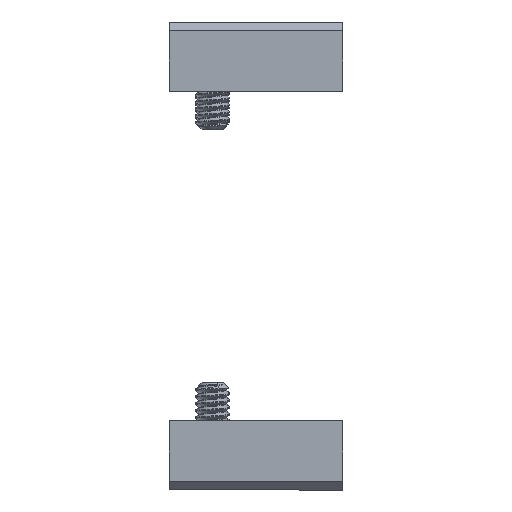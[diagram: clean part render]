
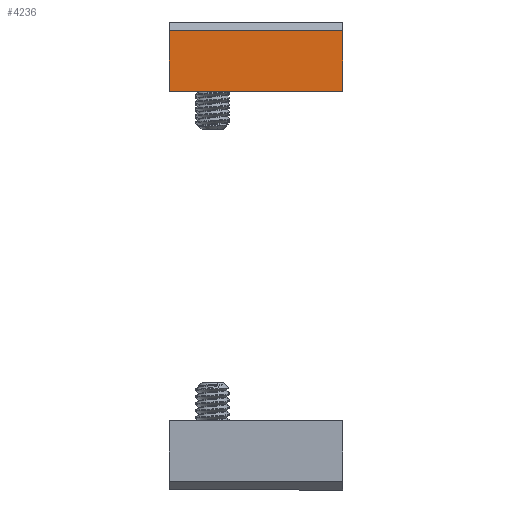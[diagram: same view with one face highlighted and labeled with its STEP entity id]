
A CAD part, left-side view. The second image highlights one B-rep face of the part: STEP entity #4236.
In plain terms, the highlighted planar face has unit normal (-1, 0, 0).
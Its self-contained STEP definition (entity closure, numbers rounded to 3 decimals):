
#28 = CARTESIAN_POINT ( 'NONE',  ( -15.5, 7.5, 0. ) ) ;
#669 = PLANE ( 'NONE',  #7419 ) ;
#1813 = DIRECTION ( 'NONE',  ( 0., 0., -1. ) ) ;
#1815 = DIRECTION ( 'NONE',  ( 0., 1., 0. ) ) ;
#3953 = LINE ( 'NONE', #16608, #8770 ) ;
#4236 = ADVANCED_FACE ( 'NONE', ( #6121 ), #669, .F. ) ;
#4299 = VECTOR ( 'NONE', #14573, 1000. ) ;
#5452 = VERTEX_POINT ( 'NONE', #16240 ) ;
#5505 = EDGE_CURVE ( 'NONE', #5924, #11567, #3953, .T. ) ;
#5924 = VERTEX_POINT ( 'NONE', #28 ) ;
#6121 = FACE_OUTER_BOUND ( 'NONE', #12725, .T. ) ;
#6250 = LINE ( 'NONE', #17993, #16974 ) ;
#7221 = EDGE_CURVE ( 'NONE', #11567, #10392, #11135, .T. ) ;
#7299 = ORIENTED_EDGE ( 'NONE', *, *, #7221, .T. ) ;
#7419 = AXIS2_PLACEMENT_3D ( 'NONE', #13822, #11951, #20070 ) ;
#7789 = ORIENTED_EDGE ( 'NONE', *, *, #5505, .T. ) ;
#8522 = EDGE_CURVE ( 'NONE', #5452, #5924, #6250, .T. ) ;
#8770 = VECTOR ( 'NONE', #14660, 1000. ) ;
#10392 = VERTEX_POINT ( 'NONE', #19156 ) ;
#11135 = LINE ( 'NONE', #17812, #4299 ) ;
#11567 = VERTEX_POINT ( 'NONE', #14966 ) ;
#11951 = DIRECTION ( 'NONE',  ( 1., 0., 0. ) ) ;
#12725 = EDGE_LOOP ( 'NONE', ( #7299, #19390, #21120, #7789 ) ) ;
#13822 = CARTESIAN_POINT ( 'NONE',  ( -15.5, 7.5, 8. ) ) ;
#14573 = DIRECTION ( 'NONE',  ( 0., 0., 1. ) ) ;
#14660 = DIRECTION ( 'NONE',  ( 0., -1., 0. ) ) ;
#14966 = CARTESIAN_POINT ( 'NONE',  ( -15.5, -12.5, 0. ) ) ;
#15886 = VECTOR ( 'NONE', #1815, 1000. ) ;
#16177 = CARTESIAN_POINT ( 'NONE',  ( -15.5, 7.5, 7. ) ) ;
#16240 = CARTESIAN_POINT ( 'NONE',  ( -15.5, 7.5, 7. ) ) ;
#16608 = CARTESIAN_POINT ( 'NONE',  ( -15.5, 7.5, 0. ) ) ;
#16974 = VECTOR ( 'NONE', #1813, 1000. ) ;
#17812 = CARTESIAN_POINT ( 'NONE',  ( -15.5, -12.5, -31.401 ) ) ;
#17993 = CARTESIAN_POINT ( 'NONE',  ( -15.5, 7.5, 8. ) ) ;
#18998 = EDGE_CURVE ( 'NONE', #10392, #5452, #21051, .T. ) ;
#19156 = CARTESIAN_POINT ( 'NONE',  ( -15.5, -12.5, 7. ) ) ;
#19390 = ORIENTED_EDGE ( 'NONE', *, *, #18998, .T. ) ;
#20070 = DIRECTION ( 'NONE',  ( 0., 1., 0. ) ) ;
#21051 = LINE ( 'NONE', #16177, #15886 ) ;
#21120 = ORIENTED_EDGE ( 'NONE', *, *, #8522, .T. ) ;
